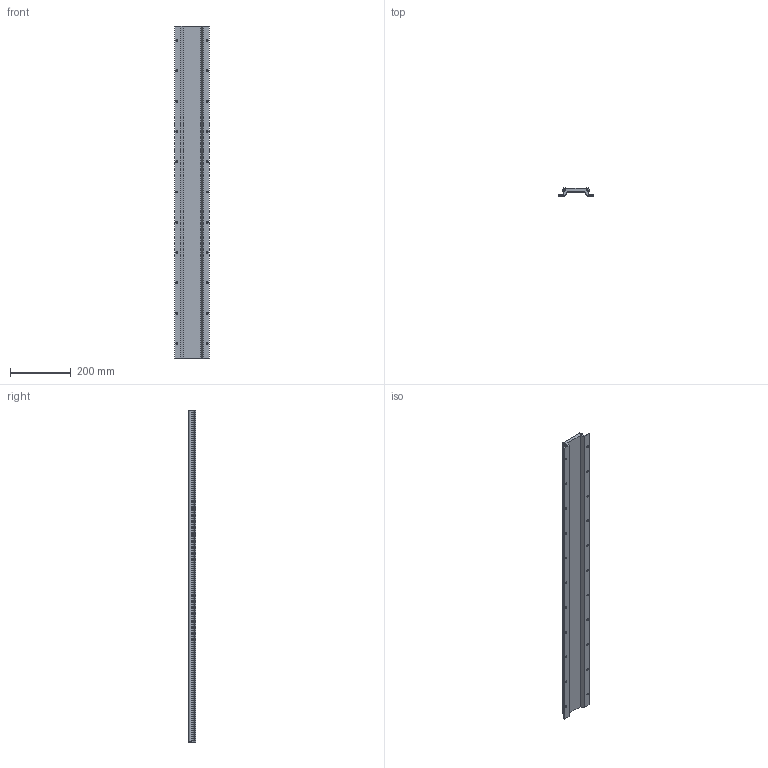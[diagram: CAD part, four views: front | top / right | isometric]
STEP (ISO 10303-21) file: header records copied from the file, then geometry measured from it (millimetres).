
FILE_DESCRIPTION (( 'STEP AP203' ), '1' );
FILE_NAME ('MLF 3_-_MLF 3 1096 mm lang.step', '2005-06-03T09:57:34', ( ' ' ), ( ' ' ), 'SwSTEP 2.0', 'SolidWorks 2004231', '' );
FILE_SCHEMA (( 'CONFIG_CONTROL_DESIGN' ));
Length unit declared in the file: millimetre
Products named in the file (1): MLF 3_-_MLF 3  1096 mm lang
Bounding box: 115 x 25.5 x 1096 mm (x, y, z)
Volume: 1422779.1 mm3; surface area: 387647.2 mm2
Topology: 1 solids, 1 shells, 168 faces, 576 edges, 380 vertices
Faces by surface type: plane 104, cylinder 64
Entity records: 6437 total; most frequent: CARTESIAN_POINT 1389, ORIENTED_EDGE 1152, DIRECTION 998, EDGE_CURVE 576, VERTEX_POINT 380, AXIS2_PLACEMENT_3D 341, VECTOR 316, LINE 316
